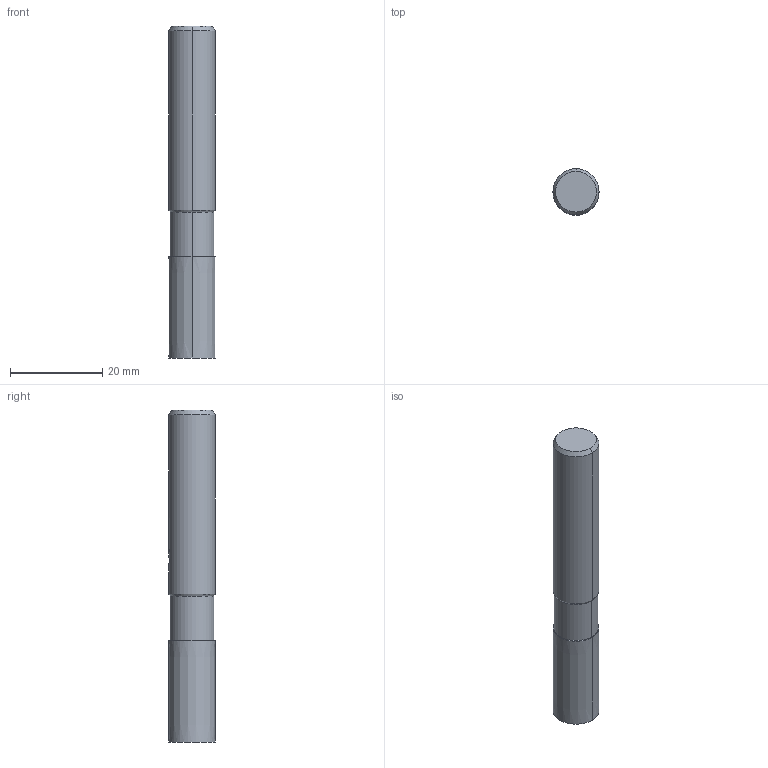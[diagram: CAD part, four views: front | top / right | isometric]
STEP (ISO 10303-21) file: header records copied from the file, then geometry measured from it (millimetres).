
FILE_DESCRIPTION(('no description'),'unknown implementation level');
FILE_NAME('solidm_46pVhloi_2XOkASptjFqYnJ40_1.STP',' ',('CIMSOURCE GmbH'),('CADClick - KiM GmbH - www.kimweb.de'),'unknown preprocess','ACIS','unknown authorization');
FILE_SCHEMA(('automotive_design'));
Length unit declared in the file: millimetre
Products named in the file (2): NOCUT; CUT
Bounding box: 10 x 10 x 72 mm (x, y, z)
Volume: 5570.7 mm3; surface area: 3272.2 mm2
Topology: 2 solids, 2 shells, 41 faces, 93 edges, 58 vertices
Faces by surface type: cylinder 16, cone 14, plane 11
Entity records: 2522 total; most frequent: CARTESIAN_POINT 448, DIRECTION 211, STYLED_ITEM 194, PRESENTATION_STYLE_ASSIGNMENT 194, COLOUR_RGB 194, ORIENTED_EDGE 186, EDGE_CURVE 93, CURVE_STYLE 93
